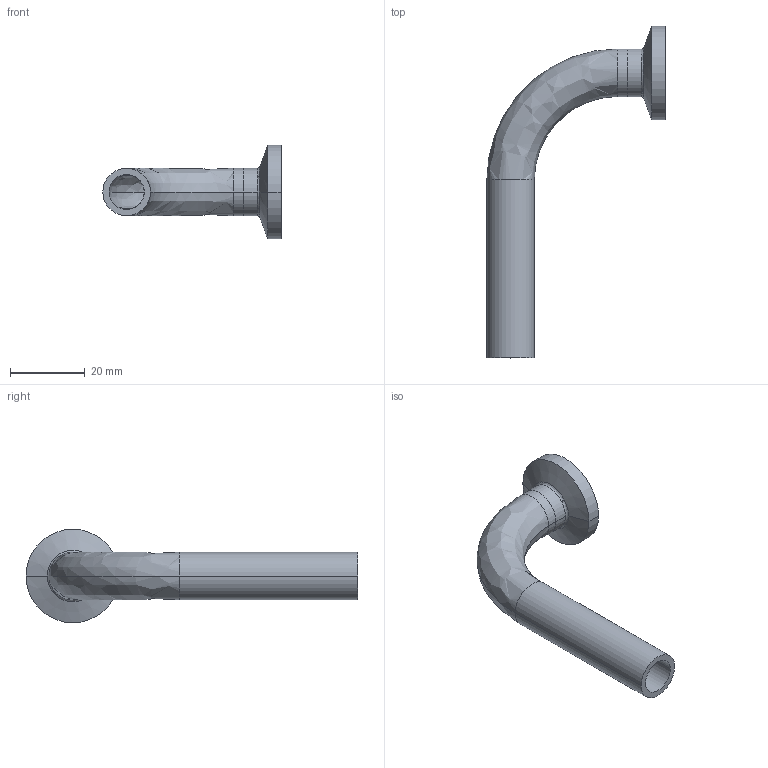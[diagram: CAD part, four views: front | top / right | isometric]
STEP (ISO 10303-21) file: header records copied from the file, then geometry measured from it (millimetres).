
FILE_DESCRIPTION (( 'STEP AP214' ), '1' );
FILE_NAME ('TE2C6L.5-...STEP', '2016-05-22T09:27:47', ( 'eran' ), ( '' ), 'SwSTEP 2.0', 'SolidWorks 2016', '' );
FILE_SCHEMA (( 'AUTOMOTIVE_DESIGN' ));
Length unit declared in the file: millimetre
Products named in the file (1): TE2C6L.5-..
Bounding box: 47.65 x 88.7 x 24.99 mm (x, y, z)
Volume: 7344 mm3; surface area: 8450.3 mm2
Topology: 2 solids, 2 shells, 37 faces, 86 edges, 54 vertices
Faces by surface type: cylinder 16, bspline 12, plane 5, cone 4
Entity records: 1265 total; most frequent: CARTESIAN_POINT 370, DIRECTION 196, ORIENTED_EDGE 172, AXIS2_PLACEMENT_3D 88, EDGE_CURVE 86, CIRCLE 62, VERTEX_POINT 54, EDGE_LOOP 42
